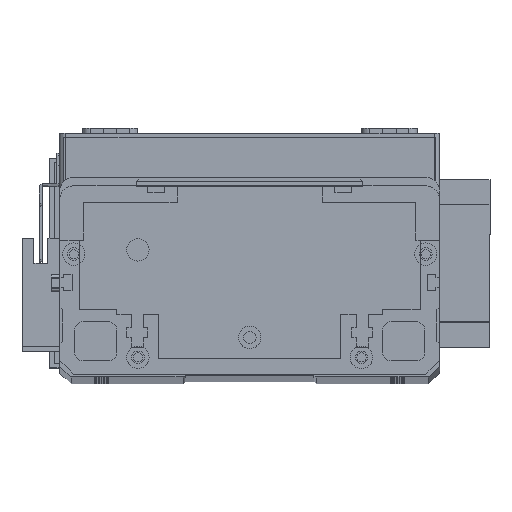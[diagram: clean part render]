
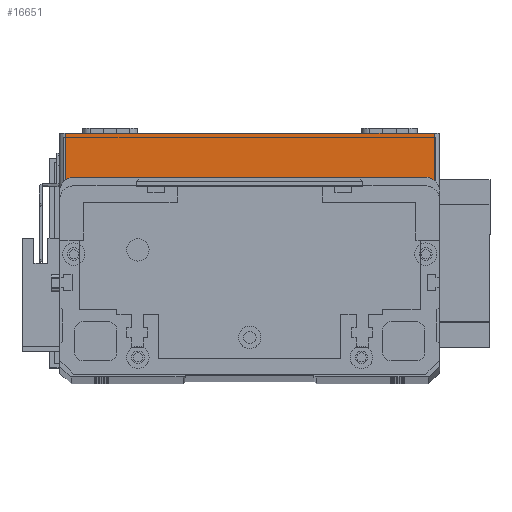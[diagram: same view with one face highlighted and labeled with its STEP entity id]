
A CAD part, top view. The second image highlights one B-rep face of the part: STEP entity #16651.
In plain terms, the highlighted planar face has unit normal (0, 0, 1) as drawn and (0, -1, 0) by its records, which use the part's own axes.
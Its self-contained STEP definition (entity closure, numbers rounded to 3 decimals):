
#145 = LINE ( 'NONE', #24981, #16770 ) ;
#1558 = VERTEX_POINT ( 'NONE', #14569 ) ;
#3444 = EDGE_CURVE ( 'NONE', #5434, #20871, #26255, .T. ) ;
#3756 = CARTESIAN_POINT ( 'NONE',  ( 0., 0., 19.5 ) ) ;
#4470 = DIRECTION ( 'NONE',  ( 0., 0., 1. ) ) ;
#4858 = CARTESIAN_POINT ( 'NONE',  ( 134., 0., 0. ) ) ;
#5434 = VERTEX_POINT ( 'NONE', #4858 ) ;
#6174 = CARTESIAN_POINT ( 'NONE',  ( 134., 0., 19.5 ) ) ;
#7284 = VECTOR ( 'NONE', #17281, 1000. ) ;
#8284 = DIRECTION ( 'NONE',  ( 0., 0., -1. ) ) ;
#9484 = LINE ( 'NONE', #21851, #20800 ) ;
#10022 = EDGE_CURVE ( 'NONE', #10309, #20871, #29322, .T. ) ;
#10309 = VERTEX_POINT ( 'NONE', #26822 ) ;
#11130 = EDGE_CURVE ( 'NONE', #1558, #5434, #145, .T. ) ;
#11451 = DIRECTION ( 'NONE',  ( 0., 0., 1. ) ) ;
#11575 = FACE_OUTER_BOUND ( 'NONE', #21250, .T. ) ;
#12026 = VECTOR ( 'NONE', #4470, 1000. ) ;
#13658 = DIRECTION ( 'NONE',  ( 1., 0., 0. ) ) ;
#14569 = CARTESIAN_POINT ( 'NONE',  ( 2., 0., 0. ) ) ;
#15882 = PLANE ( 'NONE',  #18354 ) ;
#16314 = ORIENTED_EDGE ( 'NONE', *, *, #24701, .T. ) ;
#16651 = ADVANCED_FACE ( 'NONE', ( #11575 ), #15882, .F. ) ;
#16770 = VECTOR ( 'NONE', #13658, 1000. ) ;
#16997 = ORIENTED_EDGE ( 'NONE', *, *, #11130, .T. ) ;
#17281 = DIRECTION ( 'NONE',  ( 1., 0., 0. ) ) ;
#18159 = CARTESIAN_POINT ( 'NONE',  ( 0., 0., 19.5 ) ) ;
#18354 = AXIS2_PLACEMENT_3D ( 'NONE', #18159, #25029, #11451 ) ;
#19603 = ORIENTED_EDGE ( 'NONE', *, *, #3444, .T. ) ;
#20800 = VECTOR ( 'NONE', #8284, 1000. ) ;
#20871 = VERTEX_POINT ( 'NONE', #6174 ) ;
#20911 = ORIENTED_EDGE ( 'NONE', *, *, #10022, .F. ) ;
#21250 = EDGE_LOOP ( 'NONE', ( #20911, #16314, #16997, #19603 ) ) ;
#21851 = CARTESIAN_POINT ( 'NONE',  ( 2., 0., 19.5 ) ) ;
#24701 = EDGE_CURVE ( 'NONE', #10309, #1558, #9484, .T. ) ;
#24981 = CARTESIAN_POINT ( 'NONE',  ( 0., 0., 0. ) ) ;
#25029 = DIRECTION ( 'NONE',  ( 0., 1., 0. ) ) ;
#26255 = LINE ( 'NONE', #27092, #12026 ) ;
#26822 = CARTESIAN_POINT ( 'NONE',  ( 2., 0., 19.5 ) ) ;
#27092 = CARTESIAN_POINT ( 'NONE',  ( 134., 0., 19.5 ) ) ;
#29322 = LINE ( 'NONE', #3756, #7284 ) ;
